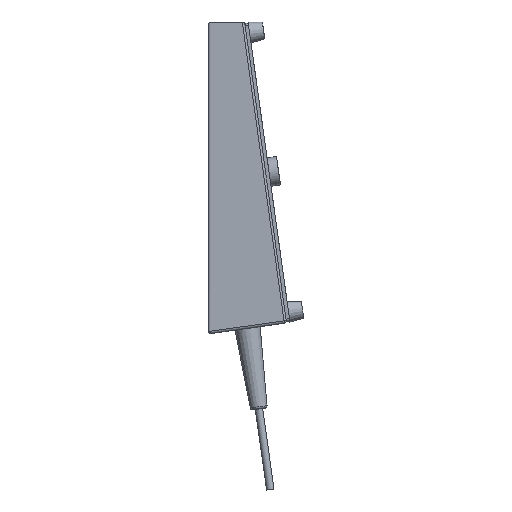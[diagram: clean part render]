
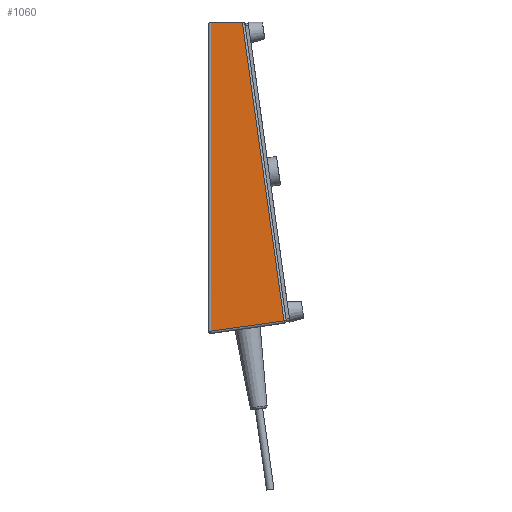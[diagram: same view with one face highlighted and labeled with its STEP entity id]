
A CAD part, left-side view. The second image highlights one B-rep face of the part: STEP entity #1060.
In plain terms, the highlighted planar face has unit normal (-1, 0, 0).
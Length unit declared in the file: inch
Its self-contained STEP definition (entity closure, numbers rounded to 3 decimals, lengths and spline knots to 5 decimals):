
#115 = EDGE_CURVE ( 'NONE', #957, #694, #548, .T. ) ;
#170 = VERTEX_POINT ( 'NONE', #1224 ) ;
#186 = EDGE_CURVE ( 'NONE', #170, #940, #371, .T. ) ;
#365 = CARTESIAN_POINT ( 'NONE',  ( -8.2, 0., 8.13722 ) ) ;
#371 = LINE ( 'NONE', #1215, #400 ) ;
#400 = VECTOR ( 'NONE', #1805, 39.37008 ) ;
#406 = EDGE_LOOP ( 'NONE', ( #1045, #696, #1959, #1942, #2063 ) ) ;
#472 = VERTEX_POINT ( 'NONE', #511 ) ;
#511 = CARTESIAN_POINT ( 'NONE',  ( -8.2, -0.06006, 8.13716 ) ) ;
#517 = EDGE_CURVE ( 'NONE', #472, #940, #1541, .T. ) ;
#540 = CARTESIAN_POINT ( 'NONE',  ( -8.2, -0.88841, 8.13631 ) ) ;
#548 = LINE ( 'NONE', #1398, #1654 ) ;
#656 = DIRECTION ( 'NONE',  ( 0., -1., -0.001 ) ) ;
#694 = VERTEX_POINT ( 'NONE', #1925 ) ;
#696 = ORIENTED_EDGE ( 'NONE', *, *, #115, .T. ) ;
#702 = LINE ( 'NONE', #2169, #2048 ) ;
#776 = CARTESIAN_POINT ( 'NONE',  ( -8.2, 0.00835, 0.05942 ) ) ;
#824 = VECTOR ( 'NONE', #656, 39.37008 ) ;
#827 = DIRECTION ( 'NONE',  ( 0., -1., -0.001 ) ) ;
#940 = VERTEX_POINT ( 'NONE', #540 ) ;
#957 = VERTEX_POINT ( 'NONE', #1268 ) ;
#1045 = ORIENTED_EDGE ( 'NONE', *, *, #1546, .F. ) ;
#1060 = ADVANCED_FACE ( 'NONE', ( #1912 ), #1602, .F. ) ;
#1215 = CARTESIAN_POINT ( 'NONE',  ( -8.2, -1.98478, 0.27687 ) ) ;
#1224 = CARTESIAN_POINT ( 'NONE',  ( -8.2, -1.97621, 0.33833 ) ) ;
#1268 = CARTESIAN_POINT ( 'NONE',  ( -8.2, -0.06, 8.13716 ) ) ;
#1317 = LINE ( 'NONE', #776, #1835 ) ;
#1359 = DIRECTION ( 'NONE',  ( 0., 0., -1. ) ) ;
#1398 = CARTESIAN_POINT ( 'NONE',  ( -8.2, -0.06, 0. ) ) ;
#1503 = DIRECTION ( 'NONE',  ( 0., -0.99, 0.139 ) ) ;
#1541 = LINE ( 'NONE', #365, #824 ) ;
#1546 = EDGE_CURVE ( 'NONE', #957, #472, #702, .T. ) ;
#1602 = PLANE ( 'NONE',  #1781 ) ;
#1605 = CARTESIAN_POINT ( 'NONE',  ( -8.2, 0., 0. ) ) ;
#1609 = DIRECTION ( 'NONE',  ( 1., 0., 0. ) ) ;
#1654 = VECTOR ( 'NONE', #1359, 39.37008 ) ;
#1781 = AXIS2_PLACEMENT_3D ( 'NONE', #1605, #1609, #1832 ) ;
#1805 = DIRECTION ( 'NONE',  ( 0., 0.138, 0.99 ) ) ;
#1832 = DIRECTION ( 'NONE',  ( 0., 0., -1. ) ) ;
#1835 = VECTOR ( 'NONE', #1503, 39.37008 ) ;
#1912 = FACE_OUTER_BOUND ( 'NONE', #406, .T. ) ;
#1925 = CARTESIAN_POINT ( 'NONE',  ( -8.2, -0.06, 0.06902 ) ) ;
#1942 = ORIENTED_EDGE ( 'NONE', *, *, #186, .T. ) ;
#1959 = ORIENTED_EDGE ( 'NONE', *, *, #1974, .T. ) ;
#1974 = EDGE_CURVE ( 'NONE', #694, #170, #1317, .T. ) ;
#2048 = VECTOR ( 'NONE', #827, 39.37008 ) ;
#2063 = ORIENTED_EDGE ( 'NONE', *, *, #517, .F. ) ;
#2169 = CARTESIAN_POINT ( 'NONE',  ( -8.2, 0., 8.13722 ) ) ;
